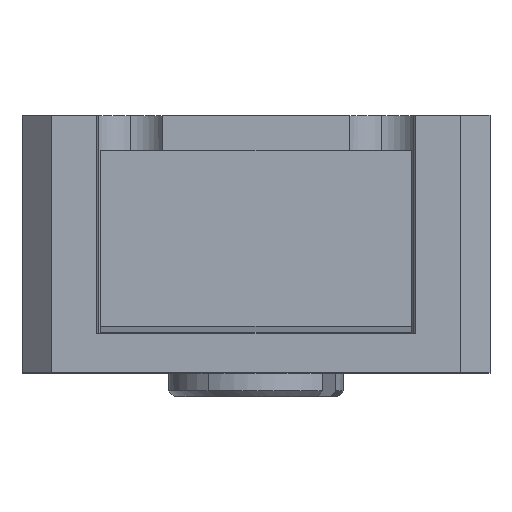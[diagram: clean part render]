
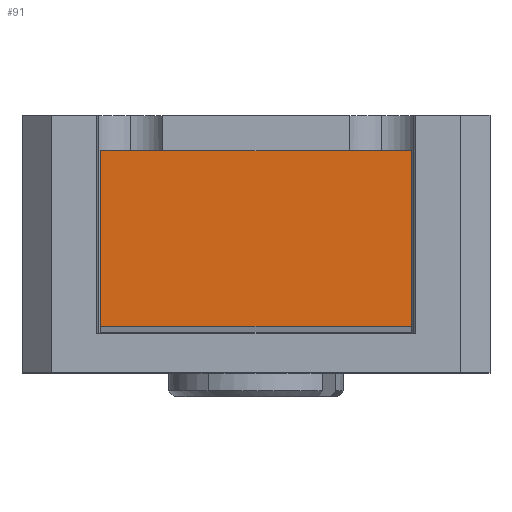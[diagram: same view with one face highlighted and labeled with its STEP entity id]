
A CAD part, top view. The second image highlights one B-rep face of the part: STEP entity #91.
In plain terms, the highlighted planar face has unit normal (0, 0, 1).
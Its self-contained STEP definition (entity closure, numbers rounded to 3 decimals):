
#91 = ADVANCED_FACE ( 'NONE', ( #513 ), #1583, .T. ) ;
#160 = EDGE_CURVE ( 'NONE', #1549, #1696, #716, .T. ) ;
#173 = CARTESIAN_POINT ( 'NONE',  ( 6.876, 19.2, 58.78 ) ) ;
#380 = DIRECTION ( 'NONE',  ( 0., -1., 0. ) ) ;
#392 = EDGE_CURVE ( 'NONE', #1696, #1505, #1581, .T. ) ;
#414 = ORIENTED_EDGE ( 'NONE', *, *, #160, .T. ) ;
#497 = CARTESIAN_POINT ( 'NONE',  ( 1.576, 19.2, 58.78 ) ) ;
#513 = FACE_OUTER_BOUND ( 'NONE', #692, .T. ) ;
#514 = CARTESIAN_POINT ( 'NONE',  ( 6.876, 22.2, 58.78 ) ) ;
#630 = DIRECTION ( 'NONE',  ( 1., 0., 0. ) ) ;
#692 = EDGE_LOOP ( 'NONE', ( #882, #1877, #1662, #414 ) ) ;
#716 = LINE ( 'NONE', #497, #897 ) ;
#723 = CARTESIAN_POINT ( 'NONE',  ( 6.876, 19.2, 58.78 ) ) ;
#882 = ORIENTED_EDGE ( 'NONE', *, *, #392, .T. ) ;
#883 = LINE ( 'NONE', #1086, #1704 ) ;
#897 = VECTOR ( 'NONE', #630, 1000. ) ;
#979 = CARTESIAN_POINT ( 'NONE',  ( 1.576, 22.2, 58.78 ) ) ;
#984 = LINE ( 'NONE', #1159, #1363 ) ;
#988 = AXIS2_PLACEMENT_3D ( 'NONE', #173, #1757, #1412 ) ;
#1020 = CARTESIAN_POINT ( 'NONE',  ( 6.876, 22.2, 58.78 ) ) ;
#1086 = CARTESIAN_POINT ( 'NONE',  ( 6.876, 22.2, 58.78 ) ) ;
#1152 = DIRECTION ( 'NONE',  ( 0., 1., 0. ) ) ;
#1159 = CARTESIAN_POINT ( 'NONE',  ( 1.576, 22.2, 58.78 ) ) ;
#1320 = EDGE_CURVE ( 'NONE', #1505, #1598, #883, .T. ) ;
#1363 = VECTOR ( 'NONE', #380, 1000. ) ;
#1412 = DIRECTION ( 'NONE',  ( 1., 0., 0. ) ) ;
#1505 = VERTEX_POINT ( 'NONE', #514 ) ;
#1539 = EDGE_CURVE ( 'NONE', #1598, #1549, #984, .T. ) ;
#1549 = VERTEX_POINT ( 'NONE', #1988 ) ;
#1581 = LINE ( 'NONE', #1020, #1863 ) ;
#1583 = PLANE ( 'NONE',  #988 ) ;
#1598 = VERTEX_POINT ( 'NONE', #979 ) ;
#1662 = ORIENTED_EDGE ( 'NONE', *, *, #1539, .T. ) ;
#1696 = VERTEX_POINT ( 'NONE', #723 ) ;
#1704 = VECTOR ( 'NONE', #1728, 1000. ) ;
#1728 = DIRECTION ( 'NONE',  ( -1., 0., 0. ) ) ;
#1757 = DIRECTION ( 'NONE',  ( 0., 0., 1. ) ) ;
#1863 = VECTOR ( 'NONE', #1152, 1000. ) ;
#1877 = ORIENTED_EDGE ( 'NONE', *, *, #1320, .T. ) ;
#1988 = CARTESIAN_POINT ( 'NONE',  ( 1.576, 19.2, 58.78 ) ) ;
